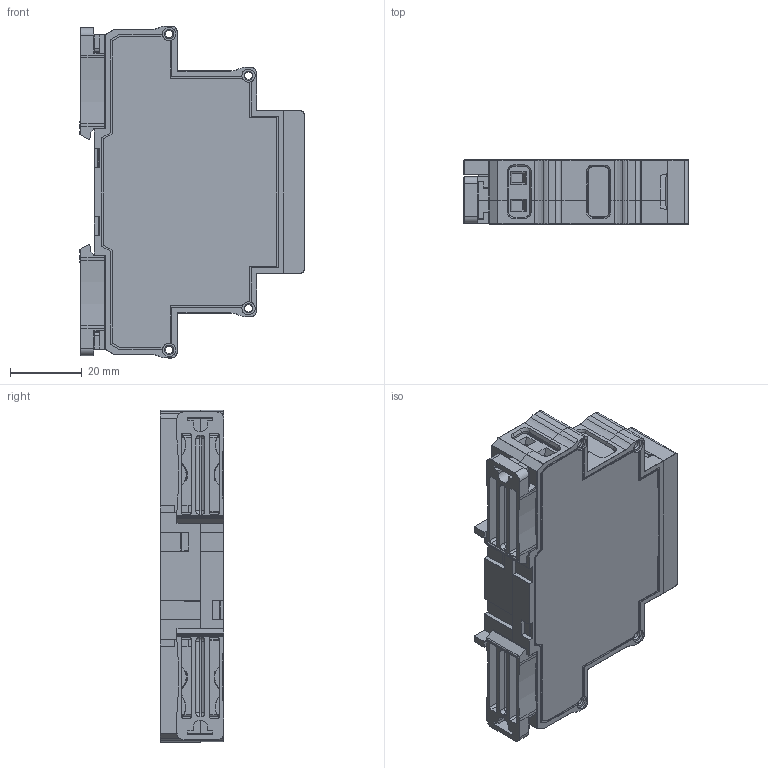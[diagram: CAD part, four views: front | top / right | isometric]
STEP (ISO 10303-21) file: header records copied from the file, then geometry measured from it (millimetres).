
FILE_DESCRIPTION(('STEP AP242'), '1');
FILE_NAME('ﾑ碚濱ﾂﾐ-ﾌ03-1', '', ('UNSPECIFIED'), ('UNSPECIFIED'), 'C3D Converter', 'C3D Toolkit', '');
FILE_SCHEMA(('AP242_MANAGED_MODEL_BASED_3D_ENGINEERING_MIM_LF { 1 0 10303 442 1 1 4 }'));
Length unit declared in the file: millimetre
Products named in the file (13): Case_UC1-2sR-2024_SimpleModel_6mm; Case_UC1-2sR-2024_SimpleModel_11mm; UC1-2sR-2024_Plug_18mm; Case_UC1-2sR_Face_2024_18mm__FR.FP.0000003; Case13-18-23mm_2step_Lock_v01a_Build20140909_1552
Assembly tree (17 placements, depth 2):
  (unnamed)
    Case_UC1-2sR-2024_SimpleModel_6mm
    Case_UC1-2sR-2024_SimpleModel_11mm
    UC1-2sR-2024_Plug_18mm  x2
    Case_UC1-2sR_Face_2024_18mm__FR.FP.0000003
    Case13-18-23mm_2step_Lock_v01a_Build20140909_1552  x2
    (unnamed)  x2
    (unnamed)  x3
    (unnamed)
    (unnamed)
    (unnamed)
    (unnamed)
    (unnamed)
Bounding box: 62.53 x 17.75 x 92.4 mm (x, y, z)
Volume: 23149.6 mm3; surface area: 36704.4 mm2
Topology: 28 solids, 28 shells, 3371 faces, 9402 edges, 6068 vertices
Faces by surface type: plane 2552, cylinder 443, torus 128, extrusion 120, cone 56, sphere 36, bspline 36
Full cylindrical faces by diameter (mm): 2.1 x8, 3.7 x8, 3.9 x4
Entity records: 126211 total; most frequent: CARTESIAN_POINT 21174, ORIENTED_EDGE 17340, DIRECTION 15242, EDGE_CURVE 8670, VECTOR 7566, LINE 7446, VERTEX_POINT 5656, AXIS2_PLACEMENT_3D 3838
